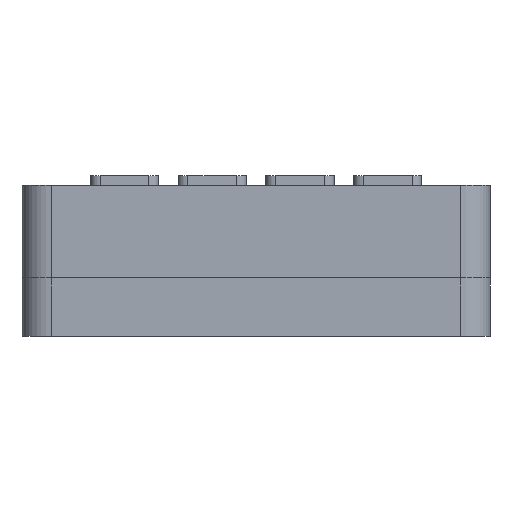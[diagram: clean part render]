
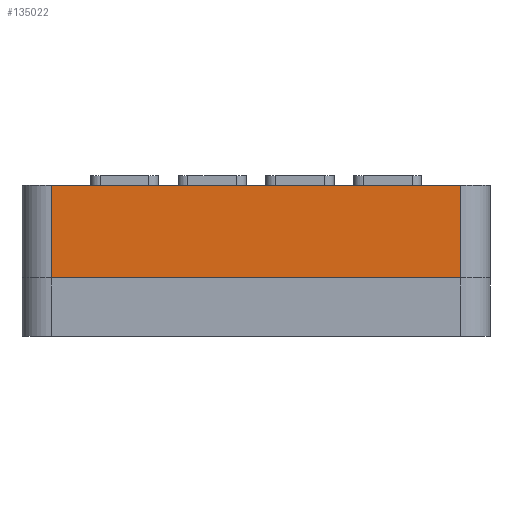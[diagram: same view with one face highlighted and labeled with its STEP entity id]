
A CAD part, front view. The second image highlights one B-rep face of the part: STEP entity #135022.
In plain terms, the highlighted planar face has unit normal (0, -1, 0).
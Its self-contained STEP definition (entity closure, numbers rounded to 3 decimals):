
#130247 = PLANE('',#130248);
#130248 = AXIS2_PLACEMENT_3D('',#130249,#130250,#130251);
#130249 = CARTESIAN_POINT('',(0.,0.,31.));
#130250 = DIRECTION('',(0.,0.,1.));
#130251 = DIRECTION('',(1.,0.,0.));
#130275 = CYLINDRICAL_SURFACE('',#130276,6.);
#130276 = AXIS2_PLACEMENT_3D('',#130277,#130278,#130279);
#130277 = CARTESIAN_POINT('',(6.,6.,12.));
#130278 = DIRECTION('',(0.,0.,1.));
#130279 = DIRECTION('',(-1.,-0.,0.));
#130303 = PLANE('',#130304);
#130304 = AXIS2_PLACEMENT_3D('',#130305,#130306,#130307);
#130305 = CARTESIAN_POINT('',(0.,0.,12.));
#130306 = DIRECTION('',(0.,0.,1.));
#130307 = DIRECTION('',(1.,0.,0.));
#130344 = VERTEX_POINT('',#130345);
#130345 = CARTESIAN_POINT('',(6.,0.,31.));
#130367 = EDGE_CURVE('',#130344,#130368,#130370,.T.);
#130368 = VERTEX_POINT('',#130369);
#130369 = CARTESIAN_POINT('',(90.,0.,31.));
#130370 = SURFACE_CURVE('',#130371,(#130375,#130382),.PCURVE_S1.);
#130371 = LINE('',#130372,#130373);
#130372 = CARTESIAN_POINT('',(0.,0.,31.));
#130373 = VECTOR('',#130374,1.);
#130374 = DIRECTION('',(1.,0.,0.));
#130375 = PCURVE('',#130247,#130376);
#130376 = DEFINITIONAL_REPRESENTATION('',(#130377),#130381);
#130377 = LINE('',#130378,#130379);
#130378 = CARTESIAN_POINT('',(0.,0.));
#130379 = VECTOR('',#130380,1.);
#130380 = DIRECTION('',(1.,0.));
#130381 = ( GEOMETRIC_REPRESENTATION_CONTEXT(2) 
PARAMETRIC_REPRESENTATION_CONTEXT() REPRESENTATION_CONTEXT('2D SPACE',''
  ) );
#130382 = PCURVE('',#130383,#130388);
#130383 = PLANE('',#130384);
#130384 = AXIS2_PLACEMENT_3D('',#130385,#130386,#130387);
#130385 = CARTESIAN_POINT('',(0.,0.,12.));
#130386 = DIRECTION('',(0.,1.,0.));
#130387 = DIRECTION('',(0.,0.,1.));
#130388 = DEFINITIONAL_REPRESENTATION('',(#130389),#130393);
#130389 = LINE('',#130390,#130391);
#130390 = CARTESIAN_POINT('',(19.,0.));
#130391 = VECTOR('',#130392,1.);
#130392 = DIRECTION('',(0.,1.));
#130393 = ( GEOMETRIC_REPRESENTATION_CONTEXT(2) 
PARAMETRIC_REPRESENTATION_CONTEXT() REPRESENTATION_CONTEXT('2D SPACE',''
  ) );
#130416 = CYLINDRICAL_SURFACE('',#130417,6.);
#130417 = AXIS2_PLACEMENT_3D('',#130418,#130419,#130420);
#130418 = CARTESIAN_POINT('',(90.,6.,12.));
#130419 = DIRECTION('',(0.,0.,1.));
#130420 = DIRECTION('',(1.,0.,-0.));
#134374 = VERTEX_POINT('',#134375);
#134375 = CARTESIAN_POINT('',(6.,0.,12.));
#134397 = EDGE_CURVE('',#134374,#134398,#134400,.T.);
#134398 = VERTEX_POINT('',#134399);
#134399 = CARTESIAN_POINT('',(90.,0.,12.));
#134400 = SURFACE_CURVE('',#134401,(#134405,#134412),.PCURVE_S1.);
#134401 = LINE('',#134402,#134403);
#134402 = CARTESIAN_POINT('',(0.,0.,12.));
#134403 = VECTOR('',#134404,1.);
#134404 = DIRECTION('',(1.,0.,0.));
#134405 = PCURVE('',#130303,#134406);
#134406 = DEFINITIONAL_REPRESENTATION('',(#134407),#134411);
#134407 = LINE('',#134408,#134409);
#134408 = CARTESIAN_POINT('',(0.,0.));
#134409 = VECTOR('',#134410,1.);
#134410 = DIRECTION('',(1.,0.));
#134411 = ( GEOMETRIC_REPRESENTATION_CONTEXT(2) 
PARAMETRIC_REPRESENTATION_CONTEXT() REPRESENTATION_CONTEXT('2D SPACE',''
  ) );
#134412 = PCURVE('',#130383,#134413);
#134413 = DEFINITIONAL_REPRESENTATION('',(#134414),#134418);
#134414 = LINE('',#134415,#134416);
#134415 = CARTESIAN_POINT('',(0.,0.));
#134416 = VECTOR('',#134417,1.);
#134417 = DIRECTION('',(0.,1.));
#134418 = ( GEOMETRIC_REPRESENTATION_CONTEXT(2) 
PARAMETRIC_REPRESENTATION_CONTEXT() REPRESENTATION_CONTEXT('2D SPACE',''
  ) );
#134946 = EDGE_CURVE('',#134374,#130344,#134947,.T.);
#134947 = SURFACE_CURVE('',#134948,(#134952,#134959),.PCURVE_S1.);
#134948 = LINE('',#134949,#134950);
#134949 = CARTESIAN_POINT('',(6.,0.,12.));
#134950 = VECTOR('',#134951,1.);
#134951 = DIRECTION('',(0.,0.,1.));
#134952 = PCURVE('',#130275,#134953);
#134953 = DEFINITIONAL_REPRESENTATION('',(#134954),#134958);
#134954 = LINE('',#134955,#134956);
#134955 = CARTESIAN_POINT('',(1.571,0.));
#134956 = VECTOR('',#134957,1.);
#134957 = DIRECTION('',(0.,1.));
#134958 = ( GEOMETRIC_REPRESENTATION_CONTEXT(2) 
PARAMETRIC_REPRESENTATION_CONTEXT() REPRESENTATION_CONTEXT('2D SPACE',''
  ) );
#134959 = PCURVE('',#130383,#134960);
#134960 = DEFINITIONAL_REPRESENTATION('',(#134961),#134965);
#134961 = LINE('',#134962,#134963);
#134962 = CARTESIAN_POINT('',(0.,6.));
#134963 = VECTOR('',#134964,1.);
#134964 = DIRECTION('',(1.,0.));
#134965 = ( GEOMETRIC_REPRESENTATION_CONTEXT(2) 
PARAMETRIC_REPRESENTATION_CONTEXT() REPRESENTATION_CONTEXT('2D SPACE',''
  ) );
#135000 = EDGE_CURVE('',#134398,#130368,#135001,.T.);
#135001 = SURFACE_CURVE('',#135002,(#135006,#135013),.PCURVE_S1.);
#135002 = LINE('',#135003,#135004);
#135003 = CARTESIAN_POINT('',(90.,0.,12.));
#135004 = VECTOR('',#135005,1.);
#135005 = DIRECTION('',(0.,0.,1.));
#135006 = PCURVE('',#130416,#135007);
#135007 = DEFINITIONAL_REPRESENTATION('',(#135008),#135012);
#135008 = LINE('',#135009,#135010);
#135009 = CARTESIAN_POINT('',(-1.571,0.));
#135010 = VECTOR('',#135011,1.);
#135011 = DIRECTION('',(-0.,1.));
#135012 = ( GEOMETRIC_REPRESENTATION_CONTEXT(2) 
PARAMETRIC_REPRESENTATION_CONTEXT() REPRESENTATION_CONTEXT('2D SPACE',''
  ) );
#135013 = PCURVE('',#130383,#135014);
#135014 = DEFINITIONAL_REPRESENTATION('',(#135015),#135019);
#135015 = LINE('',#135016,#135017);
#135016 = CARTESIAN_POINT('',(0.,90.));
#135017 = VECTOR('',#135018,1.);
#135018 = DIRECTION('',(1.,0.));
#135019 = ( GEOMETRIC_REPRESENTATION_CONTEXT(2) 
PARAMETRIC_REPRESENTATION_CONTEXT() REPRESENTATION_CONTEXT('2D SPACE',''
  ) );
#135022 = ADVANCED_FACE('',(#135023),#130383,.F.);
#135023 = FACE_BOUND('',#135024,.F.);
#135024 = EDGE_LOOP('',(#135025,#135026,#135027,#135028));
#135025 = ORIENTED_EDGE('',*,*,#134397,.F.);
#135026 = ORIENTED_EDGE('',*,*,#134946,.T.);
#135027 = ORIENTED_EDGE('',*,*,#130367,.T.);
#135028 = ORIENTED_EDGE('',*,*,#135000,.F.);
